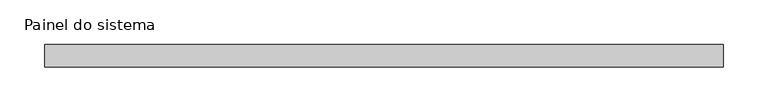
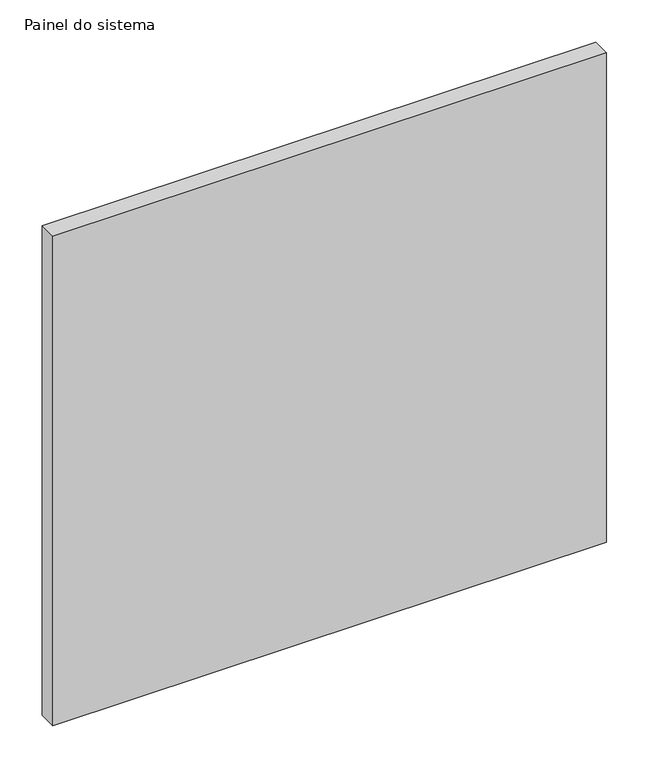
"""IFC4 building model written with IfcOpenShell, lengths in millimetres: plate geometry, Painel do sistema : Envidraçado."""

from ifc_helpers import new_model, si_unit, origin, origin_with_axes, place, context, project, spatial, polyline, outline, extrude, source, transform, mapped, element, save


def painel_do_sistema_39f8c4e0(model_context):
    return source(origin(), model_context, "Body", "SweptSolid", [
        extrude(outline(polyline([(377.5, -49.5), (-377.5, -49.5), (-377.5, -24.5), (377.5, -24.5), (377.5, -49.5)])), origin_with_axes(), (0.0, 0.0, 1.0), 705.0),
    ])


if __name__ == "__main__":
    model = new_model("IFC4")
    model_context = context("Model", 3, world=origin())
    ifc_project = project(units=[si_unit("LENGTHUNIT", "METRE", prefix="MILLI")], contexts=[model_context])
    site = spatial("IfcSite", under=ifc_project)
    building = spatial("IfcBuilding", under=site)
    placement = place(None, origin())
    painel_do_sistema_shape = painel_do_sistema_39f8c4e0(model_context)
    element("IfcPlate", 1, ObjectType="Painel do sistema : Envidraçado", at=placement, inside=building, context=model_context, shape_type="MappedRepresentation", body=[
        mapped(painel_do_sistema_shape, transform((0.0, 0.0, 0.0), x_axis=(1.0, 0.0, 0.0), y_axis=(0.0, 1.0, 0.0), z_axis=(0.0, 0.0, 1.0))),
    ])
    save(model, "model.ifc")
